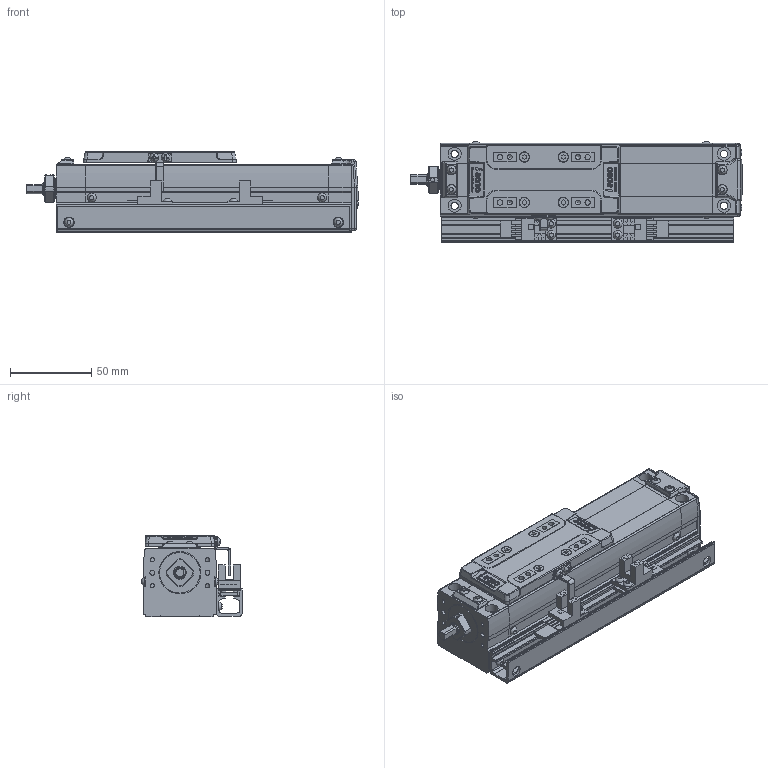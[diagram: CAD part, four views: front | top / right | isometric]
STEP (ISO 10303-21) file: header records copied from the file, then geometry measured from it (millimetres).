
FILE_DESCRIPTION(('STEP AP214'),'1');
FILE_NAME('Z:/Web/3D/SAN45/STP/SAN45ㅁㅁ-050+2SR.stp','2012-06-15T02:41:18',(' '),(' '),'Spatial InterOp 3D',' ',' ');
FILE_SCHEMA(('automotive_design'));
Length unit declared in the file: metre
Products named in the file (46): SAN45__-050; BODY-SAN45; REAR-SAN45; RRCV-SAN45; BHCS M3 x 6L; BHCS M3 X 6L; FRONT-SAN45; SHAFT; RN8 x 0.75; SSFX-SAN45; SLIDE-SAN45; SLCV-IM45; FHCS M3 x 6L; ____81; 3SR; SRL-16x17-380L; - OT; EE-SX674; SBK-SX674-352; + OT; DOG; SDG-SA45; SCREW M3 x 5L
Assembly tree (45 placements, depth 4):
  ____81
    SAN45__-050
      BODY-SAN45
      REAR-SAN45
        REAR-SAN45
        RRCV-SAN45
        BHCS M3 x 6L
        BHCS M3 X 6L
        BHCS M3 x 6L
        BHCS M3 x 6L
        BHCS M3 x 6L
        BHCS M3 x 6L
      FRONT-SAN45
        FRONT-SAN45
        SHAFT
        RN8 x 0.75
        SSFX-SAN45
        BHCS M3 x 6L
        BHCS M3 x 6L
        BHCS M3 x 6L
        BHCS M3 x 6L
      SLIDE-SAN45
        SLIDE-SAN45
        SLCV-IM45
        FHCS M3 x 6L
        FHCS M3 x 6L
        FHCS M3 x 6L
        FHCS M3 x 6L
    3SR
      SRL-16x17-380L
      BHCS M3 x 6L
      BHCS M3 x 6L
      - OT
        EE-SX674
        BHCS M3 x 6L
        BHCS M3 x 6L
        SBK-SX674-352
      + OT
        EE-SX674
        BHCS M3 x 6L
        BHCS M3 x 6L
        SBK-SX674-352
      DOG
        SDG-SA45
        SCREW M3 x 5L
        SCREW M3 x 5L
Bounding box: 204.65 x 62.06 x 50 mm (x, y, z)
Volume: 375920.3 mm3; surface area: 104139.9 mm2
Topology: 37 solids, 37 shells, 1819 faces, 4638 edges, 2983 vertices
Faces by surface type: plane 1150, cylinder 480, cone 69, sphere 50, bspline 42, torus 25, extrusion 3
Full cylindrical faces by diameter (mm): 0.376 x2, 0.47 x1, 1.137 x2, 1.421 x1, 1.665 x4, 2.081 x2, 2.2 x4, 2.5 x17, 3 x6, 3.193 x4, 3.3 x4, 3.4 x4, 3.5 x12, 3.991 x2, 4.2 x3, 4.5 x4, 5 x3, 6 x6, 6.5 x2, 7 x1, 8 x8, 13 x1, 15 x1, 19 x1
Entity records: 72874 total; most frequent: CARTESIAN_POINT 13566, DIRECTION 9177, ORIENTED_EDGE 8754, EDGE_CURVE 4377, AXIS2_PLACEMENT_3D 3067, VECTOR 3043, LINE 3040, VERTEX_POINT 2932
